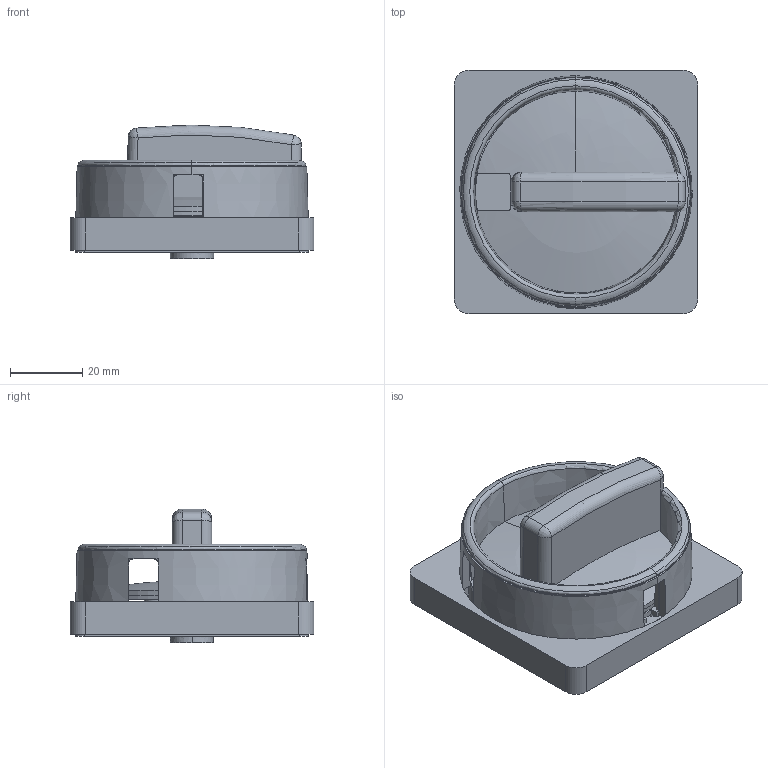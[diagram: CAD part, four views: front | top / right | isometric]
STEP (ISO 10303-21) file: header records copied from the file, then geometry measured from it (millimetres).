
FILE_DESCRIPTION((''),'2;1');
FILE_NAME('194E_HE6N_ASM','2008-07-08T',('EByaliy'),('Rockwell Automation'),'PRO/ENGINEER BY PARAMETRIC TECHNOLOGY CORPORATION, 2004320','PRO/ENGINEER BY PARAMETRIC TECHNOLOGY CORPORATION, 2004320','');
FILE_SCHEMA(('AUTOMOTIVE_DESIGN { 1 2 10303 214 0 1 1 1 }'));
Length unit declared in the file: millimetre
Products named in the file (2): _194E_HE6N_EXPORT_A; 194E_HE6N_ASM
Assembly tree (1 placements, depth 2):
  194E_HE6N_ASM
    _194E_HE6N_EXPORT_A
Bounding box: 67.5 x 67.5 x 37.1 mm (x, y, z)
Volume: 27706.7 mm3; surface area: 50336.8 mm2
Topology: 2 solids, 4 shells, 547 faces, 1522 edges, 995 vertices
Faces by surface type: plane 265, cylinder 123, extrusion 107, bspline 26, torus 12, cone 8, sphere 6
Entity records: 33378 total; most frequent: CARTESIAN_POINT 10953, ORIENTED_EDGE 3021, DIRECTION 2419, PRESENTATION_STYLE_ASSIGNMENT 2176, STYLED_ITEM 1629, CURVE_STYLE 1625, EDGE_CURVE 1518, VERTEX_POINT 995
